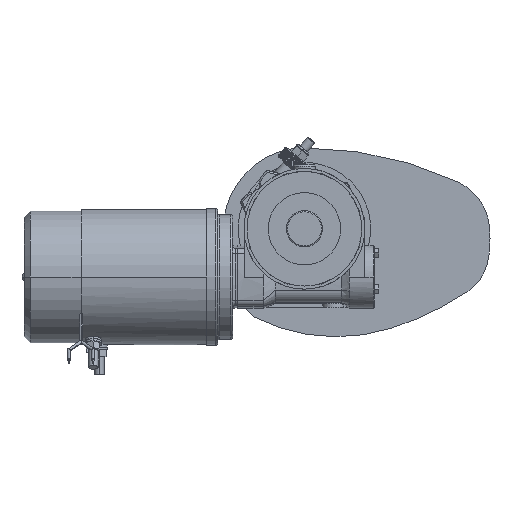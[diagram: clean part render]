
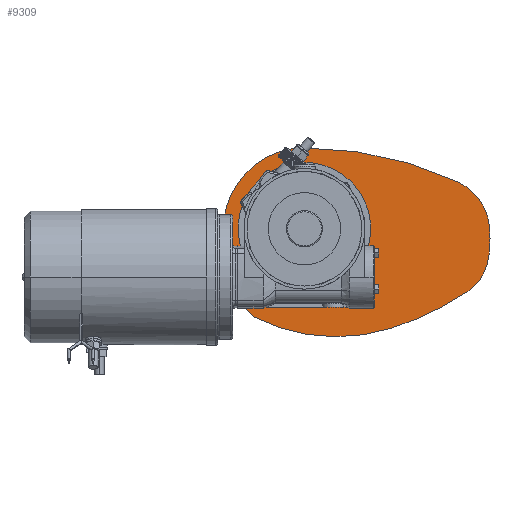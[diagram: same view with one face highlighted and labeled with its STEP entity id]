
A CAD part, front view. The second image highlights one B-rep face of the part: STEP entity #9309.
In plain terms, the highlighted planar face has unit normal (0, -1, 0).
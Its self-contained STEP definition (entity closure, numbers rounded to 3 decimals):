
#9104=CARTESIAN_POINT('',(107.188,-2.,-3.225));
#9105=DIRECTION('',(0.,1.,0.));
#9106=DIRECTION('',(0.422,0.,0.907));
#9107=AXIS2_PLACEMENT_3D('',#9104,#9105,#9106);
#9109=CARTESIAN_POINT('',(25.3,-2.,-7.5));
#9110=DIRECTION('',(0.,1.,0.));
#9111=DIRECTION('',(0.999,0.,0.052));
#9112=AXIS2_PLACEMENT_3D('',#9109,#9110,#9111);
#9114=CARTESIAN_POINT('',(111.671,-2.,-17.944));
#9115=DIRECTION('',(0.,1.,0.));
#9116=DIRECTION('',(0.993,0.,-0.119));
#9117=AXIS2_PLACEMENT_3D('',#9114,#9115,#9116);
#9119=CARTESIAN_POINT('',(-3.6,-2.,156.394));
#9120=DIRECTION('',(0.,1.,0.));
#9121=DIRECTION('',(0.552,0.,-0.834));
#9122=AXIS2_PLACEMENT_3D('',#9119,#9120,#9121);
#9124=CARTESIAN_POINT('',(26.4,-2.,61.));
#9125=DIRECTION('',(0.,1.,0.));
#9126=DIRECTION('',(0.3,0.,-0.954));
#9127=AXIS2_PLACEMENT_3D('',#9124,#9125,#9126);
#9129=DIRECTION('',(-0.707,0.,0.707));
#9130=VECTOR('',#9129,27.324);
#9131=CARTESIAN_POINT('',(-42.41,-2.,-72.849));
#9132=LINE('',#9131,#9130);
#9133=CARTESIAN_POINT('',(132.2,-2.,-5.041));
#9134=DIRECTION('',(0.,1.,0.));
#9135=DIRECTION('',(-0.97,0.,-0.243));
#9136=AXIS2_PLACEMENT_3D('',#9133,#9134,#9135);
#9138=CARTESIAN_POINT('',(17.8,-2.,-5.041));
#9139=DIRECTION('',(0.,1.,0.));
#9140=DIRECTION('',(-1.,0.,0.));
#9141=AXIS2_PLACEMENT_3D('',#9138,#9139,#9140);
#9143=CARTESIAN_POINT('',(0.,-2.,0.));
#9144=DIRECTION('',(0.,1.,0.));
#9145=DIRECTION('',(-0.963,0.,0.271));
#9146=AXIS2_PLACEMENT_3D('',#9143,#9144,#9145);
#9148=CARTESIAN_POINT('',(0.,-2.,-233.5));
#9149=DIRECTION('',(0.,1.,0.));
#9150=DIRECTION('',(0.,0.,1.));
#9151=AXIS2_PLACEMENT_3D('',#9148,#9149,#9150);
#9242=CARTESIAN_POINT('',(126.8,-2.,38.937));
#9243=CARTESIAN_POINT('',(153.627,-2.,-0.829));
#9244=VERTEX_POINT('',#9242);
#9245=VERTEX_POINT('',#9243);
#9246=CARTESIAN_POINT('',(152.874,-2.,-22.901));
#9247=VERTEX_POINT('',#9246);
#9248=CARTESIAN_POINT('',(134.627,-2.,-52.516));
#9249=VERTEX_POINT('',#9248);
#9250=CARTESIAN_POINT('',(71.55,-2.,-82.568));
#9251=VERTEX_POINT('',#9250);
#9252=CARTESIAN_POINT('',(-42.41,-2.,-72.849));
#9253=VERTEX_POINT('',#9252);
#9254=CARTESIAN_POINT('',(-61.73,-2.,-53.528));
#9255=VERTEX_POINT('',#9254);
#9256=CARTESIAN_POINT('',(-67.7,-2.,-5.041));
#9257=VERTEX_POINT('',#9256);
#9258=CARTESIAN_POINT('',(-64.494,-2.,18.154));
#9259=VERTEX_POINT('',#9258);
#9260=CARTESIAN_POINT('',(0.,-2.,67.));
#9261=VERTEX_POINT('',#9260);
#9282=CARTESIAN_POINT('',(0.,-2.,0.));
#9283=DIRECTION('',(0.,1.,0.));
#9284=DIRECTION('',(0.,0.,-1.));
#9285=AXIS2_PLACEMENT_3D('',#9282,#9283,#9284);
#9286=PLANE('',#9285);
#9288=ORIENTED_EDGE('',*,*,#9287,.T.);
#9290=ORIENTED_EDGE('',*,*,#9289,.T.);
#9292=ORIENTED_EDGE('',*,*,#9291,.T.);
#9294=ORIENTED_EDGE('',*,*,#9293,.T.);
#9296=ORIENTED_EDGE('',*,*,#9295,.T.);
#9298=ORIENTED_EDGE('',*,*,#9297,.T.);
#9300=ORIENTED_EDGE('',*,*,#9299,.T.);
#9302=ORIENTED_EDGE('',*,*,#9301,.T.);
#9304=ORIENTED_EDGE('',*,*,#9303,.T.);
#9306=ORIENTED_EDGE('',*,*,#9305,.T.);
#9307=EDGE_LOOP('',(#9288,#9290,#9292,#9294,#9296,#9298,#9300,#9302,#9304,
#9306));
#9308=FACE_OUTER_BOUND('',#9307,.F.);
#9309=ADVANCED_FACE('',(#9308),#9286,.F.);
#9108=CIRCLE('',#9107,46.5);
#9113=CIRCLE('',#9112,128.5);
#9118=CIRCLE('',#9117,41.5);
#9123=CIRCLE('',#9122,250.5);
#9128=CIRCLE('',#9127,150.5);
#9137=CIRCLE('',#9136,199.9);
#9142=CIRCLE('',#9141,85.5);
#9147=CIRCLE('',#9146,67.);
#9152=CIRCLE('',#9151,300.5);
#9287=EDGE_CURVE('',#9244,#9245,#9108,.T.);
#9289=EDGE_CURVE('',#9245,#9247,#9113,.T.);
#9291=EDGE_CURVE('',#9247,#9249,#9118,.T.);
#9293=EDGE_CURVE('',#9249,#9251,#9123,.T.);
#9295=EDGE_CURVE('',#9251,#9253,#9128,.T.);
#9297=EDGE_CURVE('',#9253,#9255,#9132,.T.);
#9299=EDGE_CURVE('',#9255,#9257,#9137,.T.);
#9301=EDGE_CURVE('',#9257,#9259,#9142,.T.);
#9303=EDGE_CURVE('',#9259,#9261,#9147,.T.);
#9305=EDGE_CURVE('',#9261,#9244,#9152,.T.);
